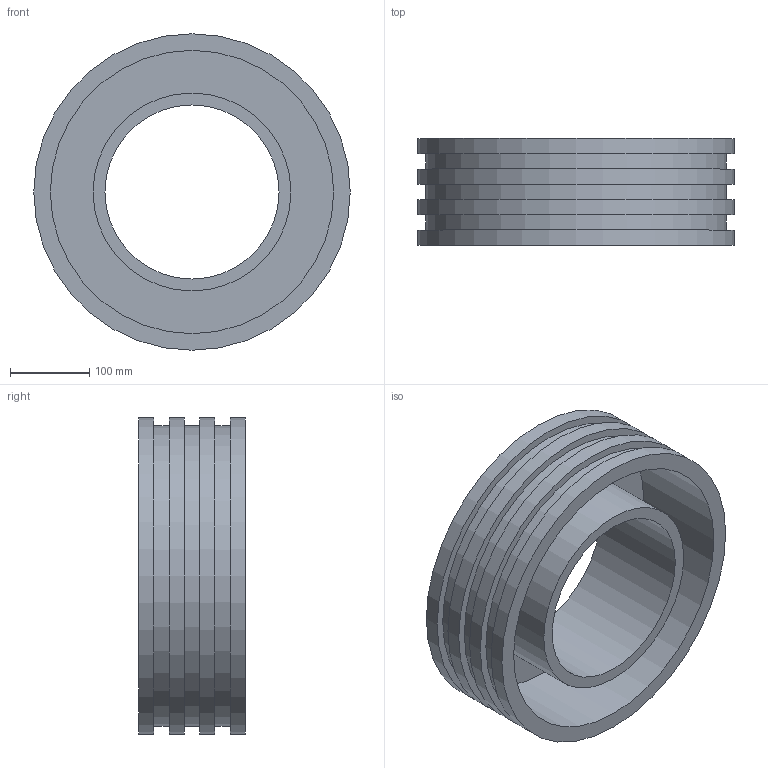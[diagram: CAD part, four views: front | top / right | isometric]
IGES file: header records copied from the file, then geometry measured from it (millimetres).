
Global section: file name: 37020250.ipt; native system: Autodesk Inventor 2015; preprocessor: unknown; author: Кирилл,,11,0; organization: 20170830.190241; date: 20171106.093316; units: millimetre
Bounding box: 400 x 135 x 400 mm (x, y, z)
Volume: 4658964 mm3; surface area: 747573.4 mm2
Topology: 1 solids, 1 shells, 20 faces, 34 edges, 24 vertices
Faces by surface type: plane 10, cylinder 8, revolution 2
Full cylindrical faces by diameter (mm): 250 x1, 380 x3, 400 x4
